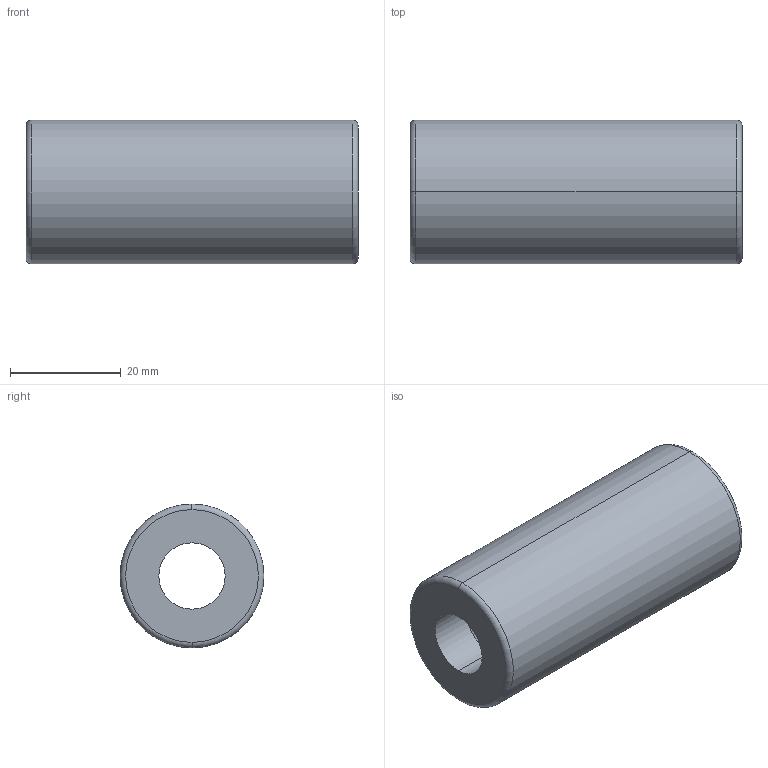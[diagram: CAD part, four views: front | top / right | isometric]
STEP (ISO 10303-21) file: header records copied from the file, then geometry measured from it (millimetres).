
FILE_DESCRIPTION (( 'STEP AP214' ), '1' );
FILE_NAME ('BR20 26x060.STEP', '2020-01-21T11:25:49', ( 'August' ), ( '' ), 'SwSTEP 2.0', 'SolidWorks 2018', '' );
FILE_SCHEMA (( 'AUTOMOTIVE_DESIGN' ));
Length unit declared in the file: millimetre
Products named in the file (1): BR20 26x060
Bounding box: 60 x 26 x 26 mm (x, y, z)
Volume: 11882.7 mm3; surface area: 9326.2 mm2
Topology: 1 solids, 1 shells, 14 faces, 28 edges, 16 vertices
Faces by surface type: cylinder 6, torus 4, cone 2, plane 2
Entity records: 406 total; most frequent: DIRECTION 78, CARTESIAN_POINT 59, ORIENTED_EDGE 56, AXIS2_PLACEMENT_3D 35, EDGE_CURVE 28, CIRCLE 20, EDGE_LOOP 16, VERTEX_POINT 16
